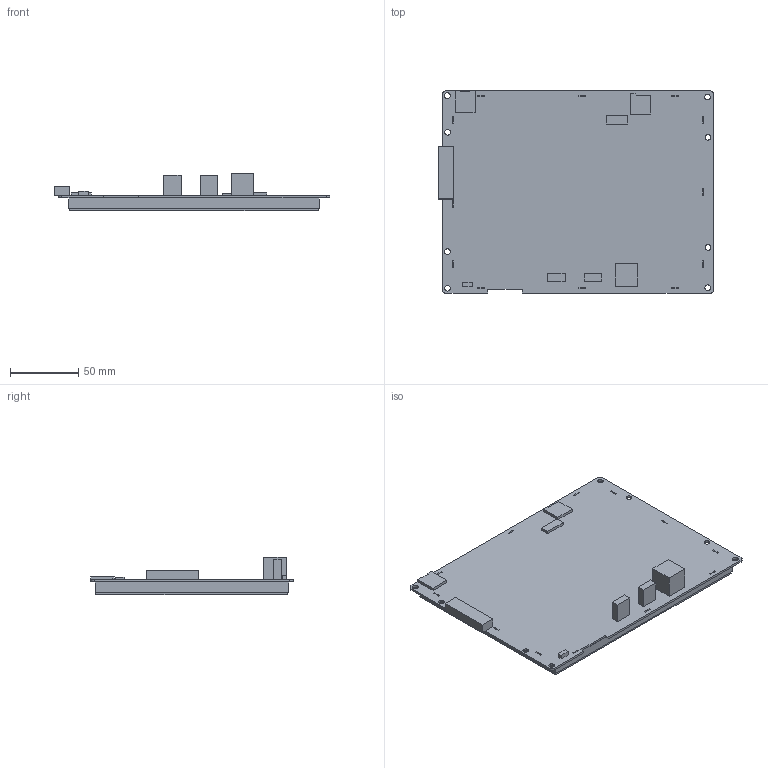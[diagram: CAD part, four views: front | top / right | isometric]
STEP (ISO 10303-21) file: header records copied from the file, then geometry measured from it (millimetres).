
FILE_DESCRIPTION (( 'STEP AP214' ), '1' );
FILE_NAME ('3d-dmg10768c080_32wtc 23.10.19.STEP', '2023-10-19T02:14:25', ( '' ), ( 'Microsoft' ), 'SwSTEP 2.0', 'SolidWorks 2017', '' );
FILE_SCHEMA (( 'AUTOMOTIVE_DESIGN' ));
Length unit declared in the file: millimetre
Products named in the file (1): 3d-dmg10768c080_32wtc 23.10.19
Bounding box: 202.39 x 148.93 x 27.4 mm (x, y, z)
Volume: 292217.5 mm3; surface area: 111787.4 mm2
Topology: 1 solids, 2 shells, 156 faces, 438 edges, 282 vertices
Faces by surface type: plane 136, cylinder 20
Entity records: 5683 total; most frequent: CARTESIAN_POINT 877, ORIENTED_EDGE 876, DIRECTION 792, EDGE_CURVE 438, VECTOR 398, LINE 398, VERTEX_POINT 282, AXIS2_PLACEMENT_3D 197
